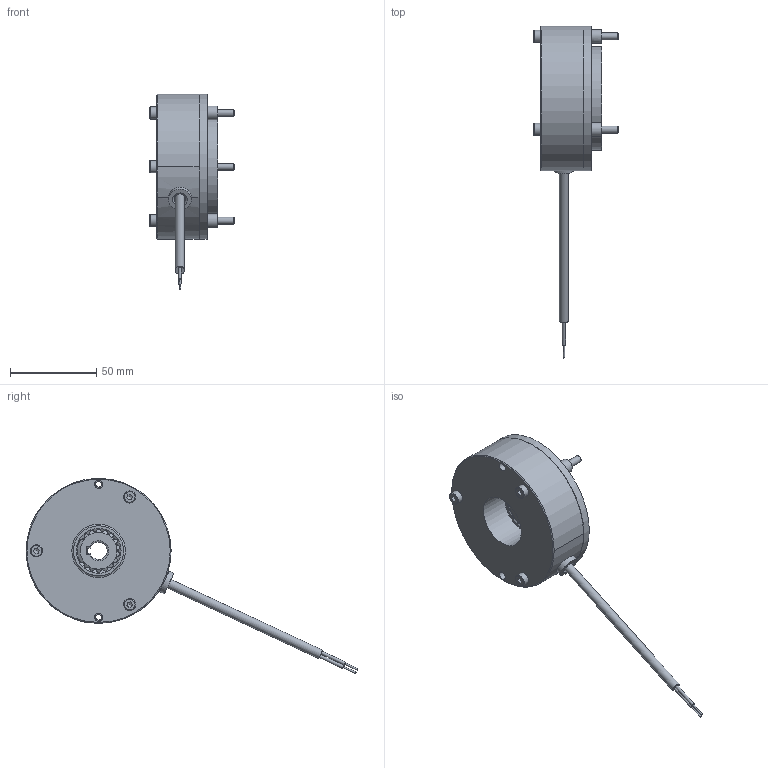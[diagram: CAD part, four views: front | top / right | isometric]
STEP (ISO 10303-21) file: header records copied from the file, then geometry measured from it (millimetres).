
FILE_DESCRIPTION(/* description */ (''),/* implementation_level */ '2;1');
FILE_NAME(/* name */ 'C:\SapWorkDir\Inventor\IP1\ConvertTempPath\5028507_IPT_000.ipt.stp',/* time_stamp */ '2020-08-27T10:48:26+02:00',/* author */ ('STRATE'),/* organization */ (''),/* preprocessor_version */ 'ST-DEVELOPER v17',/* originating_system */ 'Autodesk Inventor 2018',/* authorisation */ '');
FILE_SCHEMA (('AUTOMOTIVE_DESIGN { 1 0 10303 214 3 1 1 }'));
Length unit declared in the file: millimetre
Products named in the file (1): 5028507
Bounding box: 49 x 192.22 x 113.18 mm (x, y, z)
Volume: 162522.4 mm3; surface area: 46117.3 mm2
Topology: 4 solids, 4 shells, 255 faces, 692 edges, 468 vertices
Faces by surface type: cylinder 168, plane 63, cone 15, torus 9
Full cylindrical faces by diameter (mm): 1 x2, 1.85 x2, 3 x1, 3.242 x2, 4 x3, 4.4 x3, 4.8 x5, 5.3 x1, 6.3 x2, 6.6 x1, 7 x3, 8 x3, 8.8 x6, 13.2 x1, 29 x1, 31 x2, 39.5 x2, 40 x2, 60 x1, 84 x1
Entity records: 9024 total; most frequent: CARTESIAN_POINT 2121, ORIENTED_EDGE 1380, DIRECTION 1354, EDGE_CURVE 690, AXIS2_PLACEMENT_3D 557, VERTEX_POINT 470, EDGE_LOOP 316, CIRCLE 301
